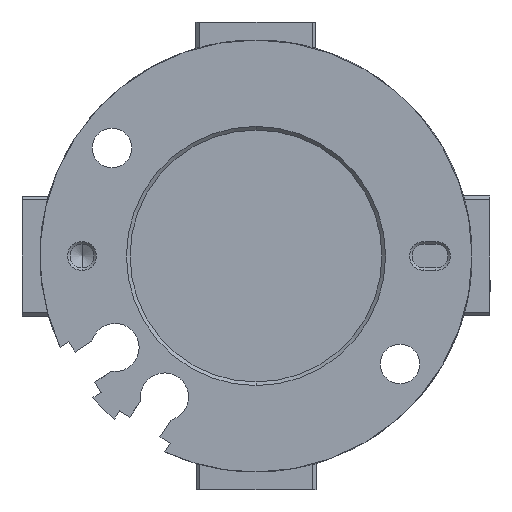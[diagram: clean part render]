
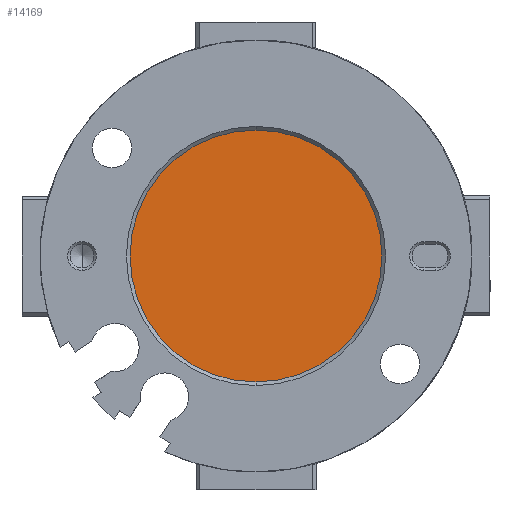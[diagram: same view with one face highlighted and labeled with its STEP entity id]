
A CAD part, front view. The second image highlights one B-rep face of the part: STEP entity #14169.
In plain terms, the highlighted planar face has unit normal (0, -1, 0).
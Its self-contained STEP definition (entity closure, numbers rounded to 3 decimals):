
#872 = VERTEX_POINT ( 'NONE', #10785 ) ;
#1592 = AXIS2_PLACEMENT_3D ( 'NONE', #65684, #34846, #3915 ) ;
#1684 = CARTESIAN_POINT ( 'NONE',  ( 0., 1.5, 0. ) ) ;
#2011 = AXIS2_PLACEMENT_3D ( 'NONE', #1684, #37782, #6851 ) ;
#2820 = PLANE ( 'NONE',  #1592 ) ;
#3915 = DIRECTION ( 'NONE',  ( 0., 0., -1. ) ) ;
#6851 = DIRECTION ( 'NONE',  ( 0., 0., -1. ) ) ;
#10102 = DIRECTION ( 'NONE',  ( 0., -1., 0. ) ) ;
#10785 = CARTESIAN_POINT ( 'NONE',  ( 0., 1.5, 10.5 ) ) ;
#14169 = ADVANCED_FACE ( 'NONE', ( #29656 ), #2820, .T. ) ;
#16172 = CIRCLE ( 'NONE', #32266, 10.5 ) ;
#21000 = CIRCLE ( 'NONE', #2011, 10.5 ) ;
#24304 = EDGE_CURVE ( 'NONE', #872, #49864, #16172, .T. ) ;
#25552 = EDGE_LOOP ( 'NONE', ( #37278, #38167 ) ) ;
#25990 = EDGE_CURVE ( 'NONE', #49864, #872, #21000, .T. ) ;
#29656 = FACE_OUTER_BOUND ( 'NONE', #25552, .T. ) ;
#32266 = AXIS2_PLACEMENT_3D ( 'NONE', #40997, #10102, #46161 ) ;
#34846 = DIRECTION ( 'NONE',  ( 0., -1., 0. ) ) ;
#37278 = ORIENTED_EDGE ( 'NONE', *, *, #25990, .T. ) ;
#37782 = DIRECTION ( 'NONE',  ( 0., -1., 0. ) ) ;
#38167 = ORIENTED_EDGE ( 'NONE', *, *, #24304, .T. ) ;
#39541 = CARTESIAN_POINT ( 'NONE',  ( 0., 1.5, -10.5 ) ) ;
#40997 = CARTESIAN_POINT ( 'NONE',  ( 0., 1.5, 0. ) ) ;
#46161 = DIRECTION ( 'NONE',  ( 0., 0., -1. ) ) ;
#49864 = VERTEX_POINT ( 'NONE', #39541 ) ;
#65684 = CARTESIAN_POINT ( 'NONE',  ( 0., 1.5, 0. ) ) ;
